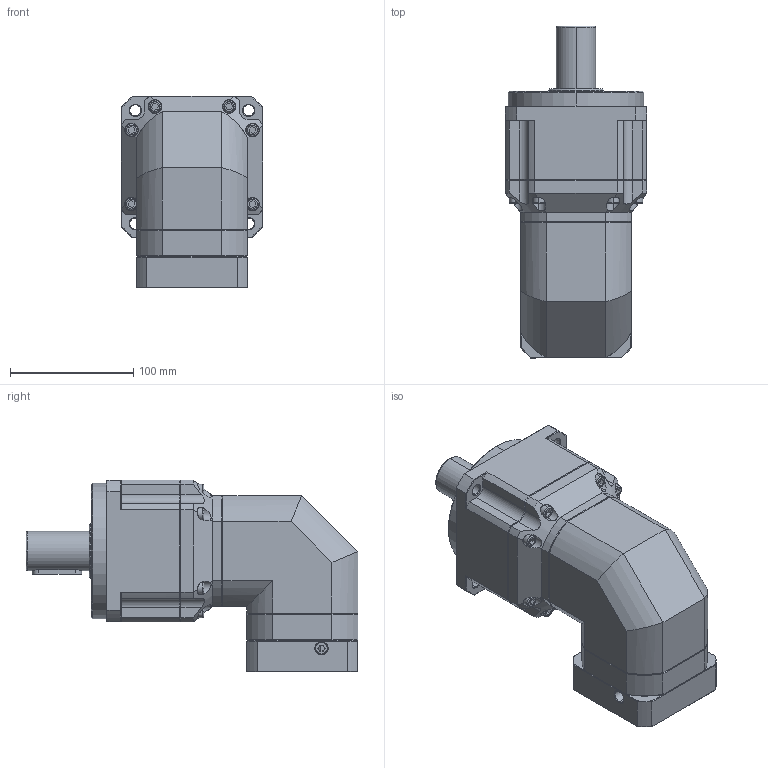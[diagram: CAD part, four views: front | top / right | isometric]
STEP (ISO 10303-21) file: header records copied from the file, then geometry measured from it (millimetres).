
FILE_DESCRIPTION (( 'STEP AP214' ), '1' );
FILE_NAME ('ZPBR115-D32-L2-P1-14-60-75-M6.step', '2024-06-29T08:06:48', ( 'Windows 蚚誧' ), ( 'Organization' ), 'SwSTEP 2.0', 'SolidWorks 2016', '' );
FILE_SCHEMA (( 'AUTOMOTIVE_DESIGN' ));
Length unit declared in the file: millimetre
Products named in the file (1): ZPBR115-D32-L2-P1-14-60-75-M6
Bounding box: 115 x 269 x 155.5 mm (x, y, z)
Surface area: 150966.5 mm2 (no closed solid volume)
Topology: 0 solids, 3 shells, 1784 faces, 4789 edges, 3106 vertices
Faces by surface type: plane 1039, bspline 397, cylinder 192, cone 156
Full cylindrical faces by diameter (mm): 10.2 x1
Entity records: 98404 total; most frequent: CARTESIAN_POINT 50176, ORIENTED_EDGE 9550, DIRECTION 7053, EDGE_CURVE 4787, VECTOR 3209, LINE 3209, VERTEX_POINT 3105, AXIS2_PLACEMENT_3D 1922
